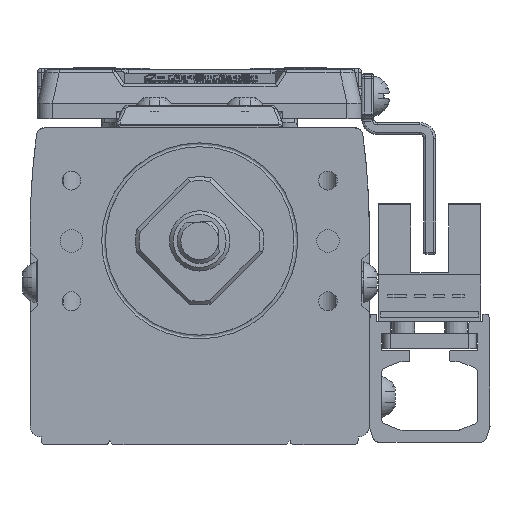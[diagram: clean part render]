
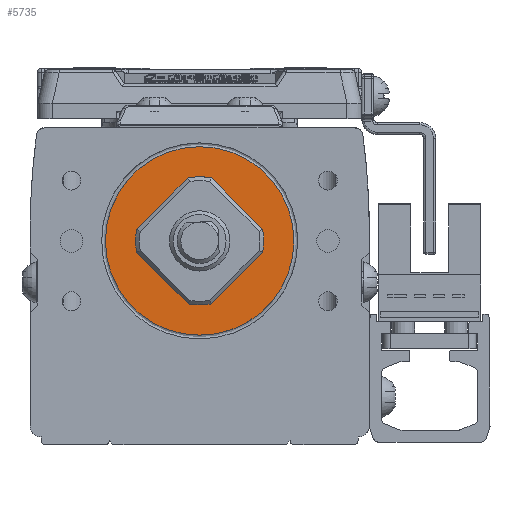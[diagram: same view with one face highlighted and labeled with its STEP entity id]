
A CAD part, left-side view. The second image highlights one B-rep face of the part: STEP entity #5735.
In plain terms, the highlighted planar face has unit normal (-1, 0, 0) as drawn and (0, 0, 1) by its records, which use the part's own axes.
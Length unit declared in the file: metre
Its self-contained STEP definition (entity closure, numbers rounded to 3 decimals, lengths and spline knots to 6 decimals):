
#5735=ADVANCED_FACE('',(#11626,#11627),#11628,.T.);
#11626=FACE_OUTER_BOUND('',#20284,.T.);
#11627=FACE_BOUND('',#20285,.T.);
#11628=PLANE('',#20286);
#20284=EDGE_LOOP('',(#34773));
#20285=EDGE_LOOP('',(#34774));
#20286=AXIS2_PLACEMENT_3D('',#34775,#34776,#34777);
#34773=ORIENTED_EDGE('',*,*,#45341,.T.);
#34774=ORIENTED_EDGE('',*,*,#45175,.F.);
#34775=CARTESIAN_POINT('',(0.000046,-0.005386,0.018));
#34776=DIRECTION('',(0.0,0.0,1.0));
#34777=DIRECTION('',(1.0,0.0,0.0));
#45175=EDGE_CURVE('',#54574,#54574,#54575,.T.);
#45341=EDGE_CURVE('',#54785,#54785,#54786,.T.);
#54574=VERTEX_POINT('',#68361);
#54575=CIRCLE('',#68362,0.004);
#54785=VERTEX_POINT('',#68701);
#54786=CIRCLE('',#68702,0.0125);
#68361=CARTESIAN_POINT('',(0.004,0.0,0.018));
#68362=AXIS2_PLACEMENT_3D('',#76562,#76563,#76564);
#68701=CARTESIAN_POINT('',(-0.0125,0.,0.018));
#68702=AXIS2_PLACEMENT_3D('',#76725,#76726,#76727);
#76562=CARTESIAN_POINT('',(0.0,0.0,0.018));
#76563=DIRECTION('',(0.0,0.0,1.0));
#76564=DIRECTION('',(-1.0,0.0,0.0));
#76725=CARTESIAN_POINT('',(0.0,0.,0.018));
#76726=DIRECTION('',(0.0,0.0,1.0));
#76727=DIRECTION('',(1.0,0.0,0.0));
